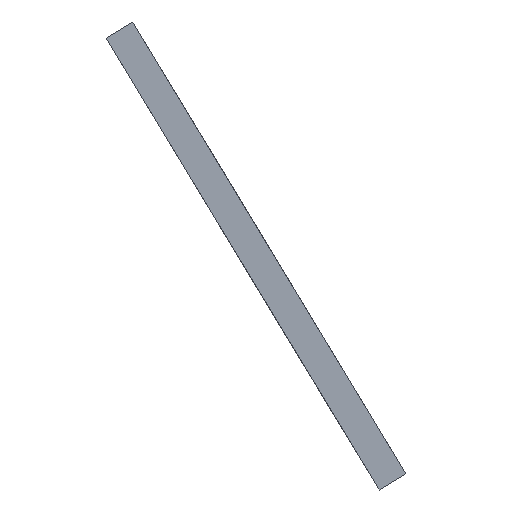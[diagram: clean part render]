
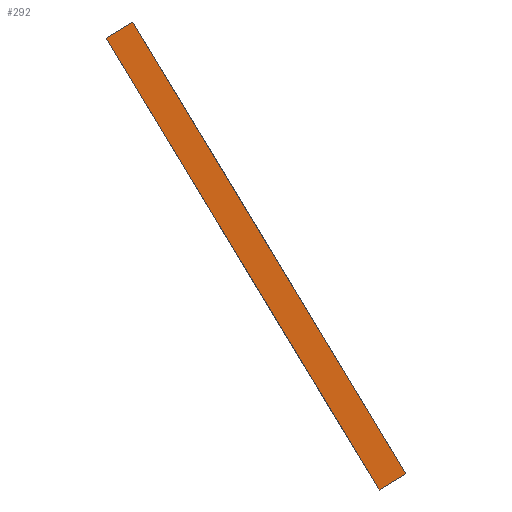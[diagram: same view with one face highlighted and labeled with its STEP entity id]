
A CAD part, left-side view. The second image highlights one B-rep face of the part: STEP entity #292.
In plain terms, the highlighted planar face has unit normal (-1, 0, 0).
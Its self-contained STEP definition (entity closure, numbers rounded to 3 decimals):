
#21 = EDGE_CURVE('',#22,#24,#26,.T.);
#22 = VERTEX_POINT('',#23);
#23 = CARTESIAN_POINT('',(-95.,-882.303,1768.548));
#24 = VERTEX_POINT('',#25);
#25 = CARTESIAN_POINT('',(-95.,-970.171,1623.017));
#26 = SURFACE_CURVE('',#27,(#31,#43),.PCURVE_S1.);
#27 = LINE('',#28,#29);
#28 = CARTESIAN_POINT('',(-95.,-882.303,1768.548));
#29 = VECTOR('',#30,1.);
#30 = DIRECTION('',(0.,-0.517,-0.856));
#31 = PCURVE('',#32,#37);
#32 = PLANE('',#33);
#33 = AXIS2_PLACEMENT_3D('',#34,#35,#36);
#34 = CARTESIAN_POINT('',(-95.,-882.303,1768.548));
#35 = DIRECTION('',(0.,-0.856,0.517));
#36 = DIRECTION('',(1.,0.,0.));
#37 = DEFINITIONAL_REPRESENTATION('',(#38),#42);
#38 = LINE('',#39,#40);
#39 = CARTESIAN_POINT('',(0.,0.));
#40 = VECTOR('',#41,1.);
#41 = DIRECTION('',(0.,-1.));
#42 = ( GEOMETRIC_REPRESENTATION_CONTEXT(2) 
PARAMETRIC_REPRESENTATION_CONTEXT() REPRESENTATION_CONTEXT('2D SPACE',''
  ) );
#43 = PCURVE('',#44,#49);
#44 = PLANE('',#45);
#45 = AXIS2_PLACEMENT_3D('',#46,#47,#48);
#46 = CARTESIAN_POINT('',(-95.,-890.864,1773.716));
#47 = DIRECTION('',(1.,0.,0.));
#48 = DIRECTION('',(0.,0.856,-0.517));
#49 = DEFINITIONAL_REPRESENTATION('',(#50),#54);
#50 = LINE('',#51,#52);
#51 = CARTESIAN_POINT('',(10.,0.));
#52 = VECTOR('',#53,1.);
#53 = DIRECTION('',(0.,-1.));
#54 = ( GEOMETRIC_REPRESENTATION_CONTEXT(2) 
PARAMETRIC_REPRESENTATION_CONTEXT() REPRESENTATION_CONTEXT('2D SPACE',''
  ) );
#72 = PLANE('',#73);
#73 = AXIS2_PLACEMENT_3D('',#74,#75,#76);
#74 = CARTESIAN_POINT('',(17.5,-974.452,1625.601));
#75 = DIRECTION('',(-0.,-0.517,-0.856));
#76 = DIRECTION('',(0.,-0.856,0.517));
#126 = PLANE('',#127);
#127 = AXIS2_PLACEMENT_3D('',#128,#129,#130);
#128 = CARTESIAN_POINT('',(17.5,-886.584,1771.132));
#129 = DIRECTION('',(-0.,-0.517,-0.856));
#130 = DIRECTION('',(0.,-0.856,0.517));
#292 = ADVANCED_FACE('',(#293),#44,.F.);
#293 = FACE_BOUND('',#294,.F.);
#294 = EDGE_LOOP('',(#295,#325,#346,#347));
#295 = ORIENTED_EDGE('',*,*,#296,.T.);
#296 = EDGE_CURVE('',#297,#299,#301,.T.);
#297 = VERTEX_POINT('',#298);
#298 = CARTESIAN_POINT('',(-95.,-890.864,1773.716));
#299 = VERTEX_POINT('',#300);
#300 = CARTESIAN_POINT('',(-95.,-978.732,1628.186));
#301 = SURFACE_CURVE('',#302,(#306,#313),.PCURVE_S1.);
#302 = LINE('',#303,#304);
#303 = CARTESIAN_POINT('',(-95.,-890.864,1773.716));
#304 = VECTOR('',#305,1.);
#305 = DIRECTION('',(0.,-0.517,-0.856));
#306 = PCURVE('',#44,#307);
#307 = DEFINITIONAL_REPRESENTATION('',(#308),#312);
#308 = LINE('',#309,#310);
#309 = CARTESIAN_POINT('',(0.,0.));
#310 = VECTOR('',#311,1.);
#311 = DIRECTION('',(0.,-1.));
#312 = ( GEOMETRIC_REPRESENTATION_CONTEXT(2) 
PARAMETRIC_REPRESENTATION_CONTEXT() REPRESENTATION_CONTEXT('2D SPACE',''
  ) );
#313 = PCURVE('',#314,#319);
#314 = PLANE('',#315);
#315 = AXIS2_PLACEMENT_3D('',#316,#317,#318);
#316 = CARTESIAN_POINT('',(130.,-890.864,1773.716));
#317 = DIRECTION('',(0.,0.856,-0.517));
#318 = DIRECTION('',(-1.,0.,0.));
#319 = DEFINITIONAL_REPRESENTATION('',(#320),#324);
#320 = LINE('',#321,#322);
#321 = CARTESIAN_POINT('',(225.,0.));
#322 = VECTOR('',#323,1.);
#323 = DIRECTION('',(-0.,-1.));
#324 = ( GEOMETRIC_REPRESENTATION_CONTEXT(2) 
PARAMETRIC_REPRESENTATION_CONTEXT() REPRESENTATION_CONTEXT('2D SPACE',''
  ) );
#325 = ORIENTED_EDGE('',*,*,#326,.T.);
#326 = EDGE_CURVE('',#299,#24,#327,.T.);
#327 = SURFACE_CURVE('',#328,(#332,#339),.PCURVE_S1.);
#328 = LINE('',#329,#330);
#329 = CARTESIAN_POINT('',(-95.,-978.732,1628.186));
#330 = VECTOR('',#331,1.);
#331 = DIRECTION('',(0.,0.856,-0.517));
#332 = PCURVE('',#44,#333);
#333 = DEFINITIONAL_REPRESENTATION('',(#334),#338);
#334 = LINE('',#335,#336);
#335 = CARTESIAN_POINT('',(0.,-170.));
#336 = VECTOR('',#337,1.);
#337 = DIRECTION('',(1.,0.));
#338 = ( GEOMETRIC_REPRESENTATION_CONTEXT(2) 
PARAMETRIC_REPRESENTATION_CONTEXT() REPRESENTATION_CONTEXT('2D SPACE',''
  ) );
#339 = PCURVE('',#72,#340);
#340 = DEFINITIONAL_REPRESENTATION('',(#341),#345);
#341 = LINE('',#342,#343);
#342 = CARTESIAN_POINT('',(5.,112.5));
#343 = VECTOR('',#344,1.);
#344 = DIRECTION('',(-1.,0.));
#345 = ( GEOMETRIC_REPRESENTATION_CONTEXT(2) 
PARAMETRIC_REPRESENTATION_CONTEXT() REPRESENTATION_CONTEXT('2D SPACE',''
  ) );
#346 = ORIENTED_EDGE('',*,*,#21,.F.);
#347 = ORIENTED_EDGE('',*,*,#348,.F.);
#348 = EDGE_CURVE('',#297,#22,#349,.T.);
#349 = SURFACE_CURVE('',#350,(#354,#361),.PCURVE_S1.);
#350 = LINE('',#351,#352);
#351 = CARTESIAN_POINT('',(-95.,-890.864,1773.716));
#352 = VECTOR('',#353,1.);
#353 = DIRECTION('',(0.,0.856,-0.517));
#354 = PCURVE('',#44,#355);
#355 = DEFINITIONAL_REPRESENTATION('',(#356),#360);
#356 = LINE('',#357,#358);
#357 = CARTESIAN_POINT('',(0.,0.));
#358 = VECTOR('',#359,1.);
#359 = DIRECTION('',(1.,0.));
#360 = ( GEOMETRIC_REPRESENTATION_CONTEXT(2) 
PARAMETRIC_REPRESENTATION_CONTEXT() REPRESENTATION_CONTEXT('2D SPACE',''
  ) );
#361 = PCURVE('',#126,#362);
#362 = DEFINITIONAL_REPRESENTATION('',(#363),#367);
#363 = LINE('',#364,#365);
#364 = CARTESIAN_POINT('',(5.,112.5));
#365 = VECTOR('',#366,1.);
#366 = DIRECTION('',(-1.,0.));
#367 = ( GEOMETRIC_REPRESENTATION_CONTEXT(2) 
PARAMETRIC_REPRESENTATION_CONTEXT() REPRESENTATION_CONTEXT('2D SPACE',''
  ) );
